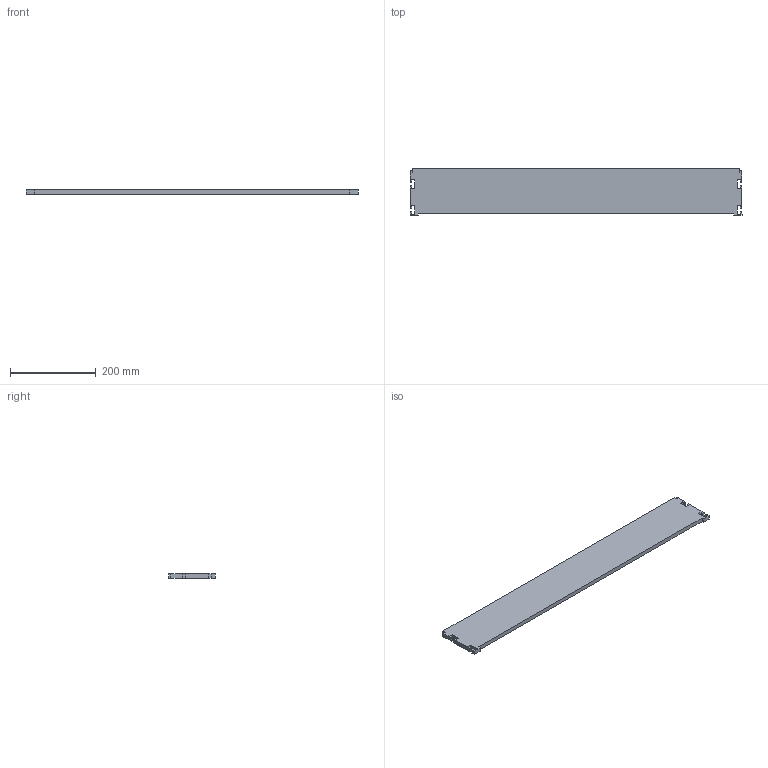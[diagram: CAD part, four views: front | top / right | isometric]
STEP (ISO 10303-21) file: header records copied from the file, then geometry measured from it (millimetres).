
FILE_DESCRIPTION (( 'STEP AP214' ), '1' );
FILE_NAME ('770 baan.STEP', '2017-02-08T12:27:06', ( '' ), ( '' ), 'SwSTEP 2.0', 'SolidWorks 2016', '' );
FILE_SCHEMA (( 'AUTOMOTIVE_DESIGN' ));
Length unit declared in the file: millimetre
Products named in the file (1): 770 baan
Bounding box: 773 x 109 x 10 mm (x, y, z)
Volume: 801025.6 mm3; surface area: 179953.1 mm2
Topology: 1 solids, 1 shells, 54 faces, 156 edges, 104 vertices
Faces by surface type: plane 54
Entity records: 1774 total; most frequent: CARTESIAN_POINT 315, ORIENTED_EDGE 312, DIRECTION 266, LINE 156, EDGE_CURVE 156, VECTOR 156, VERTEX_POINT 104, AXIS2_PLACEMENT_3D 55
